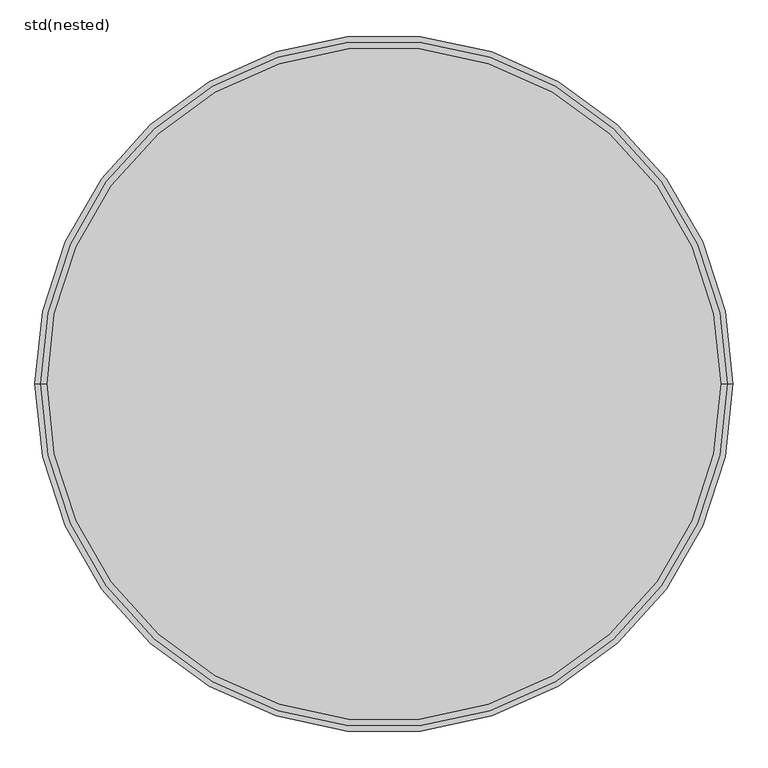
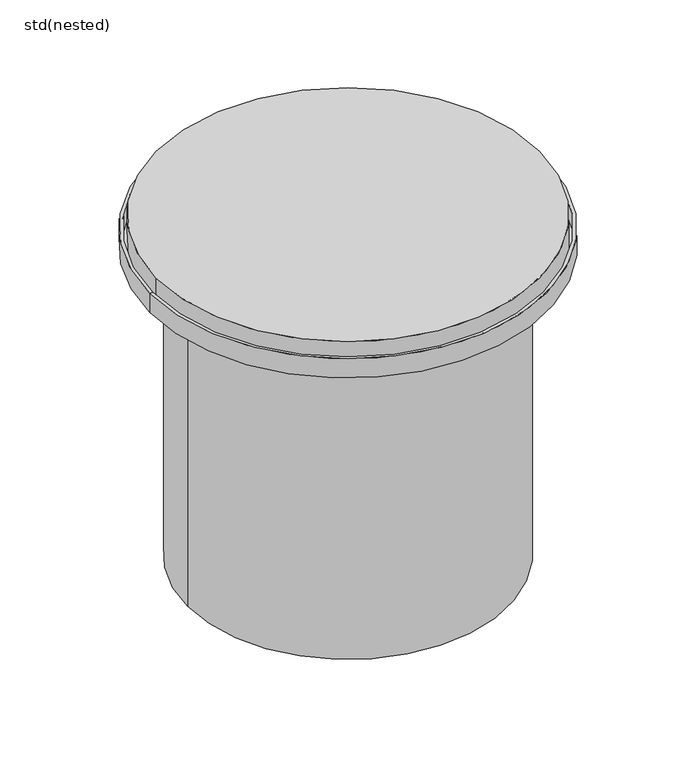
"""IFC4 building model written with IfcOpenShell, lengths in millimetres: unitary equipment geometry, ZZZ_do not use_ME_WPB_top sections_plastic_ACO : std(nested)."""

from ifc_helpers import new_model, si_unit, point, frame, origin, origin_2d, place, context, project, spatial, polyline, circle_curve, trimmed, segment, composite_curve, outline, extrude, source, transform, mapped, element, save
from ifc_brep_helpers import plane_surface, cylinder_surface, revolved_surface, advanced_brep


def std_nested_e97de6b5(model_context):
    return source(origin(), model_context, "Body", "SolidModel", [
        advanced_brep(
        [(-510.0, 0.0, -35.0), (510.0, 0.0, -35.0), (518.0, 0.0, -35.0), (-518.0, 0.0, -35.0), (-510.0, 0.0, -80.0), (510.0, 0.0, -80.0), (-410.0, 0.0, -80.0), (410.0, 0.0, -80.0), (-410.0, 0.0, -934.0), (410.0, 0.0, -934.0), (-418.0, 0.0, -934.0), (418.0, 0.0, -934.0), (-418.0, 0.0, -88.0), (418.0, 0.0, -88.0), (-518.0, 0.0, -88.0), (518.0, 0.0, -88.0)],
        [
            (0, 1, circle_curve(frame((0.0, 0.0, -35.0), z_axis=(0.0, 0.0, -1.0), x_axis=(1.0, 0.0, 0.0)), 510.0)),
            (1, 2),
            (2, 3, circle_curve(frame((0.0, 0.0, -35.0), z_axis=(0.0, 0.0, 1.0), x_axis=(1.0, 0.0, 0.0)), 518.0)),
            (3, 0),
            (1, 0, circle_curve(frame((0.0, 0.0, -35.0), z_axis=(0.0, 0.0, -1.0), x_axis=(1.0, 0.0, 0.0)), 510.0)),
            (3, 2, circle_curve(frame((0.0, 0.0, -35.0), z_axis=(0.0, 0.0, 1.0), x_axis=(1.0, 0.0, 0.0)), 518.0)),
            (4, 5, circle_curve(frame((0.0, 0.0, -80.0), z_axis=(0.0, 0.0, -1.0), x_axis=(1.0, 0.0, 0.0)), 510.0)),
            (5, 1),
            (0, 4),
            (5, 4, circle_curve(frame((0.0, 0.0, -80.0), z_axis=(0.0, 0.0, -1.0), x_axis=(1.0, 0.0, 0.0)), 510.0)),
            (6, 7, circle_curve(frame((0.0, 0.0, -80.0), z_axis=(0.0, 0.0, -1.0), x_axis=(1.0, 0.0, 0.0)), 410.0)),
            (7, 5),
            (4, 6),
            (7, 6, circle_curve(frame((0.0, 0.0, -80.0), z_axis=(0.0, 0.0, -1.0), x_axis=(1.0, 0.0, 0.0)), 410.0)),
            (8, 9, circle_curve(frame((0.0, 0.0, -934.0), z_axis=(0.0, 0.0, -1.0), x_axis=(1.0, 0.0, 0.0)), 410.0)),
            (9, 7),
            (6, 8),
            (9, 8, circle_curve(frame((0.0, 0.0, -934.0), z_axis=(0.0, 0.0, -1.0), x_axis=(1.0, 0.0, 0.0)), 410.0)),
            (10, 11, circle_curve(frame((0.0, 0.0, -934.0), z_axis=(0.0, 0.0, -1.0), x_axis=(1.0, 0.0, 0.0)), 418.0)),
            (11, 9),
            (8, 10),
            (11, 10, circle_curve(frame((0.0, 0.0, -934.0), z_axis=(0.0, 0.0, -1.0), x_axis=(1.0, 0.0, 0.0)), 418.0)),
            (12, 13, circle_curve(frame((0.0, 0.0, -88.0), z_axis=(0.0, 0.0, -1.0), x_axis=(1.0, 0.0, 0.0)), 418.0)),
            (13, 11),
            (10, 12),
            (13, 12, circle_curve(frame((0.0, 0.0, -88.0), z_axis=(0.0, 0.0, -1.0), x_axis=(1.0, 0.0, 0.0)), 418.0)),
            (14, 15, circle_curve(frame((0.0, 0.0, -88.0), z_axis=(0.0, 0.0, -1.0), x_axis=(1.0, 0.0, 0.0)), 518.0)),
            (15, 13),
            (12, 14),
            (15, 14, circle_curve(frame((0.0, 0.0, -88.0), z_axis=(0.0, 0.0, -1.0), x_axis=(1.0, 0.0, 0.0)), 518.0)),
            (2, 15),
            (14, 3),
        ],
        [
            plane_surface(frame((0.0, 0.0, -35.0), z_axis=(0.0, 0.0, 1.0), x_axis=(1.0, 0.0, 0.0))),
            revolved_surface(polyline([(510.0, 0.0, -35.0), (510.0, 0.0, -80.0)]), (0.0, 0.0, 240.0), (0.0, 0.0, 1.0)),
            plane_surface(frame((0.0, 0.0, -80.0), z_axis=(0.0, 0.0, 1.0), x_axis=(1.0, 0.0, 0.0))),
            revolved_surface(polyline([(410.0, 0.0, -80.0), (410.0, 0.0, -934.0)]), (0.0, 0.0, 240.0), (0.0, 0.0, 1.0)),
            plane_surface(frame((0.0, 0.0, -934.0), z_axis=(0.0, 0.0, -1.0), x_axis=(1.0, 0.0, 0.0))),
            cylinder_surface(frame((0.0, 0.0, 240.0), z_axis=(0.0, 0.0, 1.0), x_axis=(1.0, 0.0, 0.0)), 418.0),
            plane_surface(frame((0.0, 0.0, -88.0), z_axis=(0.0, 0.0, -1.0), x_axis=(1.0, 0.0, 0.0))),
            cylinder_surface(frame((0.0, 0.0, 240.0), z_axis=(0.0, 0.0, 1.0), x_axis=(1.0, 0.0, 0.0)), 518.0),
        ],
        [
            (0, [[1, 2, 3, 4]]),
            (0, [[5, -4, 6, -2]]),
            (1, [[7, 8, -1, 9]]),
            (1, [[10, -9, -5, -8]]),
            (2, [[11, 12, -7, 13]]),
            (2, [[14, -13, -10, -12]]),
            (3, [[15, 16, -11, 17]]),
            (3, [[18, -17, -14, -16]]),
            (4, [[19, 20, -15, 21]]),
            (4, [[22, -21, -18, -20]]),
            (5, [[23, 24, -19, 25]]),
            (5, [[26, -25, -22, -24]]),
            (6, [[27, 28, -23, 29]]),
            (6, [[30, -29, -26, -28]]),
            (7, [[-3, 31, -27, 32]]),
            (7, [[-6, -32, -30, -31]]),
        ],
    ),
        extrude(outline(composite_curve([segment(trimmed(circle_curve(origin_2d(), 500.0), [point((-500.0, 0.0))], [point((500.0, 0.0))], False, "CARTESIAN"), True, "CONTINUOUS"), segment(trimmed(circle_curve(origin_2d(), 500.0), [point((500.0, 0.0))], [point((-500.0, 0.0))], False, "CARTESIAN"), True, "CONTINUOUS")], self_intersect=False)), frame((0.0, 0.0, -80.0), z_axis=(0.0, 0.0, 1.0), x_axis=(1.0, 0.0, 0.0)), (0.0, 0.0, 1.0), 80.0),
    ])


if __name__ == "__main__":
    model = new_model("IFC4")
    model_context = context("Model", 3, world=origin())
    ifc_project = project(units=[si_unit("LENGTHUNIT", "METRE", prefix="MILLI")], contexts=[model_context])
    site = spatial("IfcSite", under=ifc_project)
    building = spatial("IfcBuilding", under=site)
    placement = place(None, origin())
    std_nested_shape = std_nested_e97de6b5(model_context)
    element("IfcUnitaryEquipment", 1, ObjectType="ZZZ_do not use_ME_WPB_top sections_plastic_ACO : std(nested)", at=placement, inside=building, context=model_context, shape_type="MappedRepresentation", body=[
        mapped(std_nested_shape, transform((0.0, 0.0, 0.0), x_axis=(1.0, 0.0, 0.0), y_axis=(0.0, 1.0, 0.0), z_axis=(0.0, 0.0, 1.0))),
    ])
    save(model, "model.ifc")
